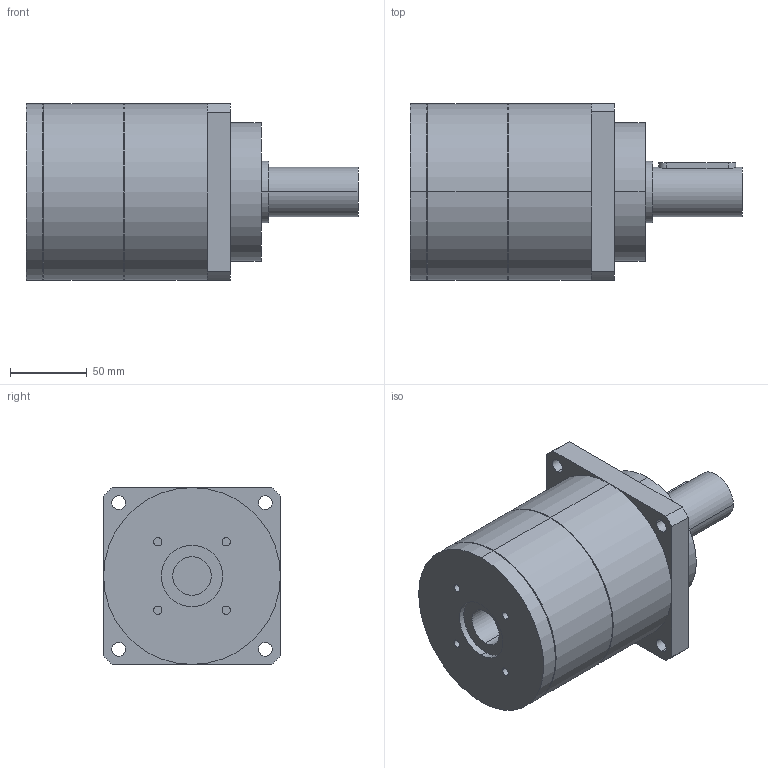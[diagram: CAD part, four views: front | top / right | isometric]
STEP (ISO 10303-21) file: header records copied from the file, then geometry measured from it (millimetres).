
FILE_DESCRIPTION(('CoCreate Modeling STEP Export'),'2;1');
FILE_NAME('GPT120_ig-3-4-5-7-10_32_B5A_25_P23.stp','2015-02-04T17:00:24',(''),(''),'CoCreate Modeling STEP processor for AP214 (Solid Model)','CoCreate Modeling 16.00C 25-Feb-2009 (C) Parametric Technology GmbH','');
FILE_SCHEMA(('AUTOMOTIVE_DESIGN { 1 0 10303 214 1 1 1 1 }'));
Length unit declared in the file: millimetre
Products named in the file (2): GPT120_ig-3-4-5-7-10_32_B5A_25_P23
Assembly tree (1 placements, depth 2):
  GPT120_ig-3-4-5-7-10_32_B5A_25_P23
    GPT120_ig-3-4-5-7-10_32_B5A_25_P23
Bounding box: 216 x 115 x 115 mm (x, y, z)
Volume: 1564677.5 mm3; surface area: 96446 mm2
Topology: 1 solids, 1 shells, 69 faces, 168 edges, 113 vertices
Faces by surface type: cylinder 40, plane 25, cone 4
Entity records: 2200 total; most frequent: CARTESIAN_POINT 695, ORIENTED_EDGE 336, DIRECTION 262, EDGE_CURVE 168, VERTEX_POINT 113, AXIS2_PLACEMENT_3D 98, EDGE_LOOP 89, FACE_OUTER_BOUND 69
